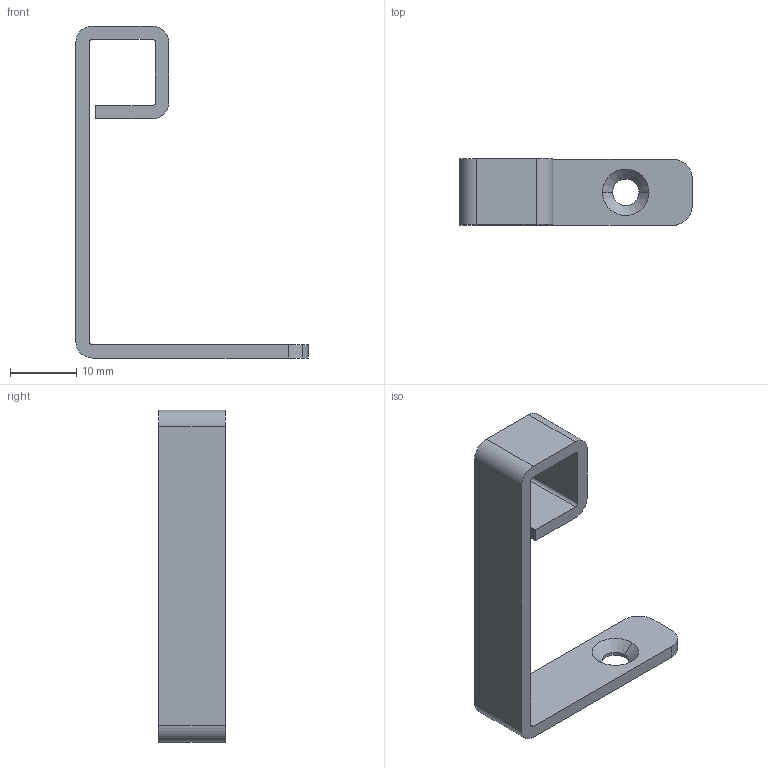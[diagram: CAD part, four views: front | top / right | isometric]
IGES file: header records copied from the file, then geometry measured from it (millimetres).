
Start section: 3D InterOp IGES (v. 2022 1.0.1), Spatial Corp. Copyright (c) 1999-2020.
Global section: file name: Q503-C.igs; native system: Spatial Corp.; preprocessor: 3D InterOp GENERIC/IGES 3.0; author: Noname; organization: Noname; date: 20260518.094812; units: millimetre
Bounding box: 35 x 10 x 50 mm (x, y, z)
Volume: 2218 mm3; surface area: 2741.2 mm2
Topology: 1 solids, 1 shells, 30 faces, 82 edges, 54 vertices
Faces by surface type: cylinder 14, extrusion 14, cone 2
